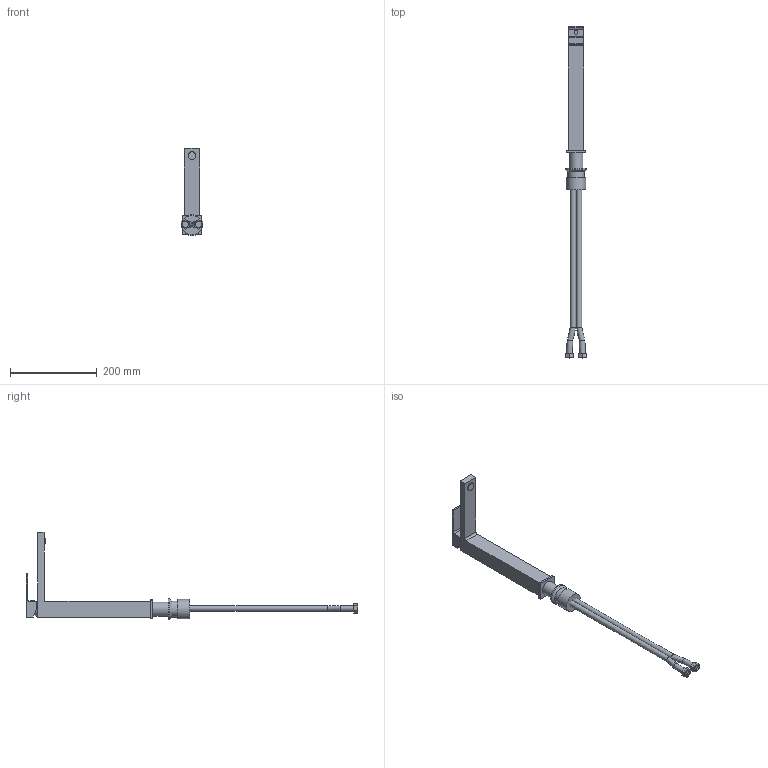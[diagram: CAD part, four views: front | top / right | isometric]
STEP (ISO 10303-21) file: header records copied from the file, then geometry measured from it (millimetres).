
FILE_DESCRIPTION(/* description */ ('CANTO bateria umywalkowa wysoka CHROM'),/* implementation_level */ '2;1');
FILE_NAME(/* name */ 'C:\Nextcloud\02_biblioteki_cad\Valvex\Projekt\PROJECTS\Eksport\ETAP 7\CANTO\2420360\2420360.stp',/* time_stamp */ '2022-09-27T13:34:08+02:00',/* author */ ('Cadventure'),/* organization */ (''),/* preprocessor_version */ 'ST-DEVELOPER v18.1',/* originating_system */ 'Autodesk Inventor 2022',/* authorisation */ '');
FILE_SCHEMA (('AUTOMOTIVE_DESIGN { 1 0 10303 214 3 1 1 }'));
Length unit declared in the file: millimetre
Products named in the file (1): 2420360
Bounding box: 49.2 x 763.25 x 200.75 mm (x, y, z)
Volume: 704744.9 mm3; surface area: 122981.4 mm2
Topology: 5 solids, 5 shells, 75 faces, 165 edges, 110 vertices
Faces by surface type: plane 49, cylinder 20, bspline 5, cone 1
Full cylindrical faces by diameter (mm): 9 x1, 13 x2, 15 x2, 18 x1, 32 x1, 37 x1, 45 x1, 48 x1
Entity records: 2265 total; most frequent: CARTESIAN_POINT 449, DIRECTION 356, ORIENTED_EDGE 330, EDGE_CURVE 165, AXIS2_PLACEMENT_3D 124, VERTEX_POINT 110, LINE 108, VECTOR 108
